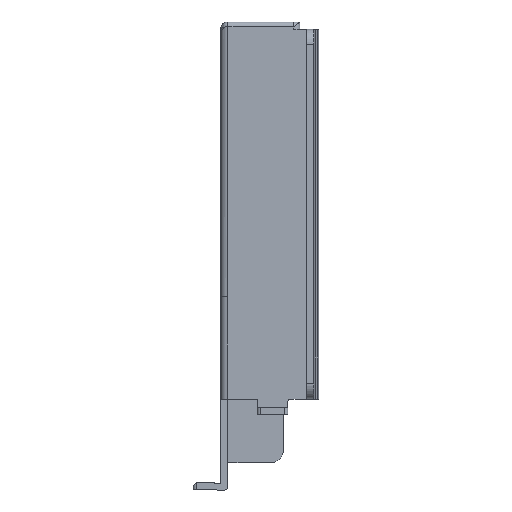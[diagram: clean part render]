
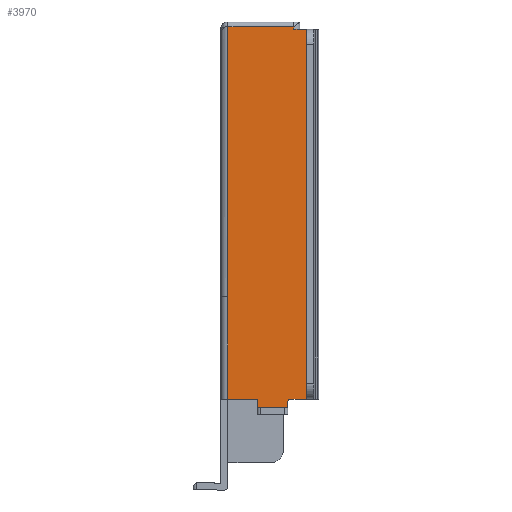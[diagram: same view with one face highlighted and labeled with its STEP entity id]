
A CAD part, front view. The second image highlights one B-rep face of the part: STEP entity #3970.
In plain terms, the highlighted planar face has unit normal (0, -1, 0).
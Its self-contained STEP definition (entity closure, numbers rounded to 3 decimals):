
#352 = DIRECTION ( 'NONE',  ( 0., 0., 1. ) ) ;
#366 = CARTESIAN_POINT ( 'NONE',  ( 12., -12.7, -16.54 ) ) ;
#370 = DIRECTION ( 'NONE',  ( 0., 0., -1. ) ) ;
#372 = CARTESIAN_POINT ( 'NONE',  ( 0., -12.7, -17.34 ) ) ;
#373 = DIRECTION ( 'NONE',  ( -1., 0., 0. ) ) ;
#374 = CARTESIAN_POINT ( 'NONE',  ( -2., -12.7, -17.74 ) ) ;
#375 = DIRECTION ( 'NONE',  ( -1., 0., 0. ) ) ;
#378 = CARTESIAN_POINT ( 'NONE',  ( 14.1, -12.7, 189.9 ) ) ;
#382 = CARTESIAN_POINT ( 'NONE',  ( 1.2, -12.7, 189.06 ) ) ;
#383 = DIRECTION ( 'NONE',  ( 0., 0., 1. ) ) ;
#385 = CARTESIAN_POINT ( 'NONE',  ( 1.2, -12.7, -61.597 ) ) ;
#391 = DIRECTION ( 'NONE',  ( 0., 0., 1. ) ) ;
#474 = DIRECTION ( 'NONE',  ( 0., 0., 1. ) ) ;
#475 = CARTESIAN_POINT ( 'NONE',  ( 6., -12.7, -71.34 ) ) ;
#485 = DIRECTION ( 'NONE',  ( 1., 0., 0. ) ) ;
#497 = CARTESIAN_POINT ( 'NONE',  ( 0., -12.7, -78.34 ) ) ;
#513 = DIRECTION ( 'NONE',  ( 0., 0., -1. ) ) ;
#516 = DIRECTION ( 'NONE',  ( 0., -1., 0. ) ) ;
#517 = CARTESIAN_POINT ( 'NONE',  ( 11.5, -12.7, -78.84 ) ) ;
#539 = DIRECTION ( 'NONE',  ( 0., 0., 1. ) ) ;
#542 = CARTESIAN_POINT ( 'NONE',  ( 11., -12.7, -80.54 ) ) ;
#553 = CARTESIAN_POINT ( 'NONE',  ( 6., -12.7, -79.94 ) ) ;
#577 = DIRECTION ( 'NONE',  ( 1., 0., 0. ) ) ;
#641 = DIRECTION ( 'NONE',  ( 1., 0., 0. ) ) ;
#643 = CARTESIAN_POINT ( 'NONE',  ( 12., -12.7, -78.34 ) ) ;
#803 = CARTESIAN_POINT ( 'NONE',  ( 6., -12.7, -78.34 ) ) ;
#837 = CARTESIAN_POINT ( 'NONE',  ( 14.1, -12.7, -78.34 ) ) ;
#867 = CARTESIAN_POINT ( 'NONE',  ( 6., -12.7, -79.94 ) ) ;
#891 = CARTESIAN_POINT ( 'NONE',  ( 14.1, -12.7, -17.74 ) ) ;
#893 = CARTESIAN_POINT ( 'NONE',  ( 12., -12.7, -17.74 ) ) ;
#919 = CARTESIAN_POINT ( 'NONE',  ( 1.2, -12.7, -61.597 ) ) ;
#932 = CARTESIAN_POINT ( 'NONE',  ( 11.5, -12.7, -78.34 ) ) ;
#937 = CARTESIAN_POINT ( 'NONE',  ( 11., -12.7, -79.94 ) ) ;
#945 = CARTESIAN_POINT ( 'NONE',  ( 1.2, -12.7, -78.34 ) ) ;
#1283 = DIRECTION ( 'NONE',  ( 0., 0., 1. ) ) ;
#1284 = DIRECTION ( 'NONE',  ( 0., 1., 0. ) ) ;
#1286 = PLANE ( 'NONE',  #1728 ) ;
#1295 = CARTESIAN_POINT ( 'NONE',  ( 0., -12.7, 189.9 ) ) ;
#1522 = CARTESIAN_POINT ( 'NONE',  ( 12., -12.7, -17.34 ) ) ;
#1556 = CARTESIAN_POINT ( 'NONE',  ( 1.2, -12.7, -17.34 ) ) ;
#1658 = CARTESIAN_POINT ( 'NONE',  ( 11., -12.7, -78.84 ) ) ;
#1728 = AXIS2_PLACEMENT_3D ( 'NONE', #1295, #1284, #1283 ) ;
#1860 = EDGE_CURVE ( 'NONE', #3529, #3766, #2833, .T. ) ;
#1862 = EDGE_CURVE ( 'NONE', #3766, #3755, #2827, .T. ) ;
#1863 = EDGE_CURVE ( 'NONE', #3531, #3529, #2825, .T. ) ;
#1865 = EDGE_CURVE ( 'NONE', #3531, #3584, #2829, .T. ) ;
#1866 = EDGE_CURVE ( 'NONE', #3505, #3755, #2820, .T. ) ;
#1869 = EDGE_CURVE ( 'NONE', #3481, #3505, #2821, .T. ) ;
#1889 = EDGE_CURVE ( 'NONE', #3493, #3584, #2781, .T. ) ;
#1902 = EDGE_CURVE ( 'NONE', #3555, #3488, #2759, .T. ) ;
#1904 = EDGE_CURVE ( 'NONE', #3493, #3645, #2756, .T. ) ;
#1905 = EDGE_CURVE ( 'NONE', #3488, #3645, #2754, .T. ) ;
#1909 = EDGE_CURVE ( 'NONE', #3481, #3614, #2751, .T. ) ;
#1910 = EDGE_CURVE ( 'NONE', #3555, #3614, #2746, .T. ) ;
#2155 = AXIS2_PLACEMENT_3D ( 'NONE', #517, #516, #513 ) ;
#2306 = ORIENTED_EDGE ( 'NONE', *, *, #1865, .F. ) ;
#2320 = ORIENTED_EDGE ( 'NONE', *, *, #1860, .T. ) ;
#2679 = ORIENTED_EDGE ( 'NONE', *, *, #1862, .T. ) ;
#2743 = VECTOR ( 'NONE', #474, 1000. ) ;
#2745 = VECTOR ( 'NONE', #485, 1000. ) ;
#2746 = LINE ( 'NONE', #475, #2743 ) ;
#2751 = LINE ( 'NONE', #497, #2745 ) ;
#2752 = VECTOR ( 'NONE', #539, 1000. ) ;
#2754 = LINE ( 'NONE', #542, #2752 ) ;
#2756 = CIRCLE ( 'NONE', #2155, 0.5 ) ;
#2757 = VECTOR ( 'NONE', #577, 1000. ) ;
#2759 = LINE ( 'NONE', #553, #2757 ) ;
#2778 = VECTOR ( 'NONE', #641, 1000. ) ;
#2781 = LINE ( 'NONE', #643, #2778 ) ;
#2812 = VECTOR ( 'NONE', #391, 1000. ) ;
#2817 = VECTOR ( 'NONE', #383, 1000. ) ;
#2819 = VECTOR ( 'NONE', #370, 1000. ) ;
#2820 = LINE ( 'NONE', #382, #2817 ) ;
#2821 = LINE ( 'NONE', #385, #2812 ) ;
#2822 = VECTOR ( 'NONE', #375, 1000. ) ;
#2824 = VECTOR ( 'NONE', #373, 1000. ) ;
#2825 = LINE ( 'NONE', #374, #2822 ) ;
#2827 = LINE ( 'NONE', #372, #2824 ) ;
#2828 = VECTOR ( 'NONE', #352, 1000. ) ;
#2829 = LINE ( 'NONE', #378, #2819 ) ;
#2833 = LINE ( 'NONE', #366, #2828 ) ;
#3420 = ORIENTED_EDGE ( 'NONE', *, *, #1869, .F. ) ;
#3421 = ORIENTED_EDGE ( 'NONE', *, *, #1866, .F. ) ;
#3422 = ORIENTED_EDGE ( 'NONE', *, *, #1910, .F. ) ;
#3423 = ORIENTED_EDGE ( 'NONE', *, *, #1909, .T. ) ;
#3424 = ORIENTED_EDGE ( 'NONE', *, *, #1905, .T. ) ;
#3425 = ORIENTED_EDGE ( 'NONE', *, *, #1902, .T. ) ;
#3426 = ORIENTED_EDGE ( 'NONE', *, *, #1889, .T. ) ;
#3427 = ORIENTED_EDGE ( 'NONE', *, *, #1904, .F. ) ;
#3428 = ORIENTED_EDGE ( 'NONE', *, *, #1863, .T. ) ;
#3481 = VERTEX_POINT ( 'NONE', #945 ) ;
#3488 = VERTEX_POINT ( 'NONE', #937 ) ;
#3493 = VERTEX_POINT ( 'NONE', #932 ) ;
#3505 = VERTEX_POINT ( 'NONE', #919 ) ;
#3529 = VERTEX_POINT ( 'NONE', #893 ) ;
#3531 = VERTEX_POINT ( 'NONE', #891 ) ;
#3555 = VERTEX_POINT ( 'NONE', #867 ) ;
#3584 = VERTEX_POINT ( 'NONE', #837 ) ;
#3614 = VERTEX_POINT ( 'NONE', #803 ) ;
#3645 = VERTEX_POINT ( 'NONE', #1658 ) ;
#3708 = EDGE_LOOP ( 'NONE', ( #3421, #3420, #3423, #3422, #3425, #3424, #3427, #3426, #2306, #3428, #2320, #2679 ) ) ;
#3755 = VERTEX_POINT ( 'NONE', #1556 ) ;
#3766 = VERTEX_POINT ( 'NONE', #1522 ) ;
#3897 = FACE_OUTER_BOUND ( 'NONE', #3708, .T. ) ;
#3970 = ADVANCED_FACE ( 'NONE', ( #3897 ), #1286, .F. ) ;
